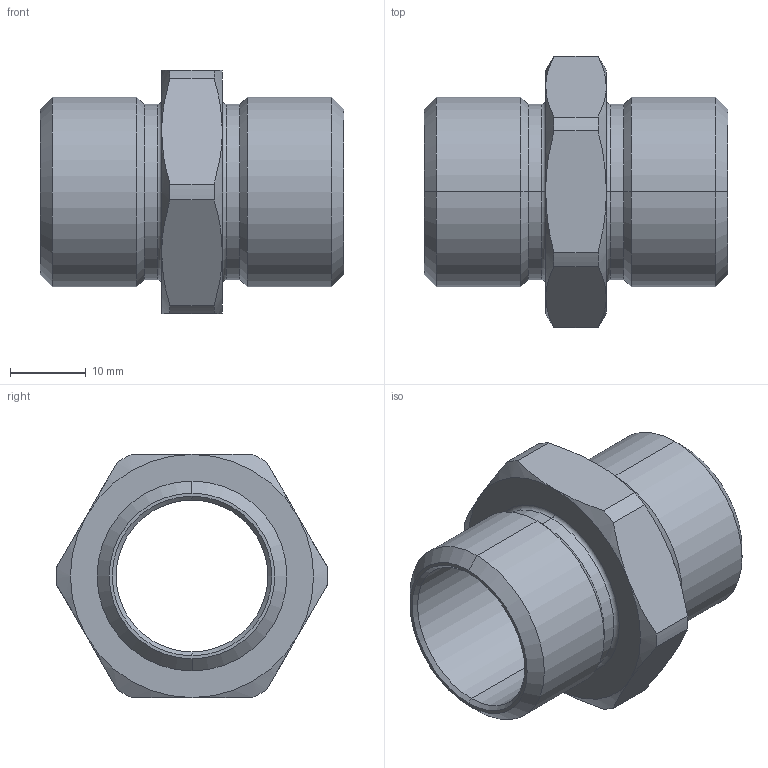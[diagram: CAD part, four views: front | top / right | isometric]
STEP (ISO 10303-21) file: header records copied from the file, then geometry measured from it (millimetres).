
FILE_DESCRIPTION (( 'STEP AP203' ), '1' );
FILE_NAME ('ﾍﾂﾍ2Mﾍ.STEP', '2019-06-05T11:18:20', ( '' ), ( '' ), 'SwSTEP 2.0', 'SolidWorks 2012', '' );
FILE_SCHEMA (( 'CONFIG_CONTROL_DESIGN' ));
Length unit declared in the file: millimetre
Products named in the file (1): ﾍﾂﾍ2Mﾍ
Bounding box: 40 x 35.79 x 32 mm (x, y, z)
Volume: 9139.9 mm3; surface area: 7150 mm2
Topology: 1 solids, 1 shells, 60 faces, 130 edges, 76 vertices
Faces by surface type: cone 24, cylinder 20, plane 12, torus 4
Entity records: 1811 total; most frequent: CARTESIAN_POINT 419, DIRECTION 296, ORIENTED_EDGE 260, EDGE_CURVE 130, AXIS2_PLACEMENT_3D 129, VERTEX_POINT 76, CIRCLE 68, EDGE_LOOP 66
